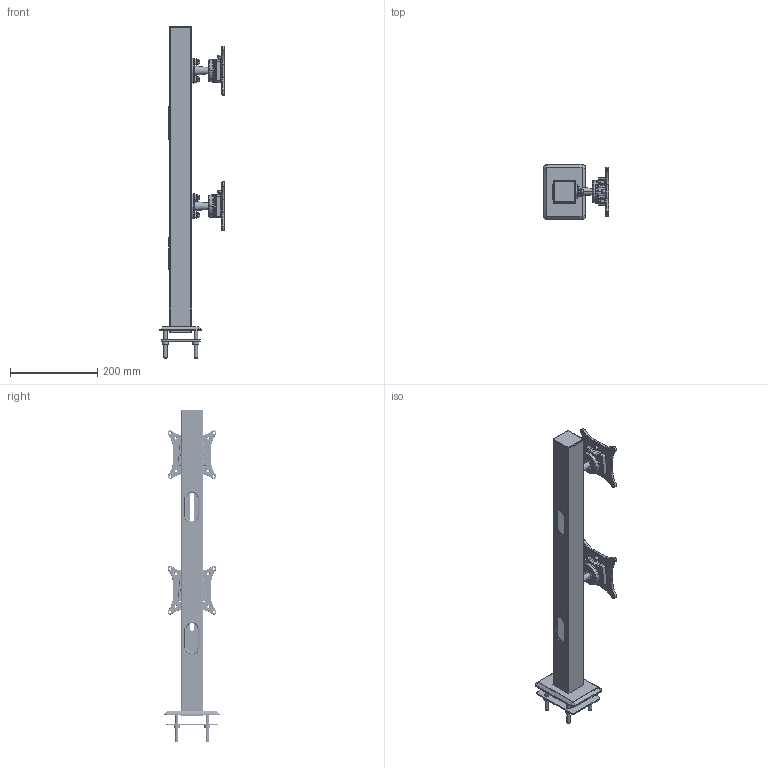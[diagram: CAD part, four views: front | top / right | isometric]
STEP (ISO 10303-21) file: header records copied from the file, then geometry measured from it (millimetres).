
FILE_DESCRIPTION(/* description */ (''),/* implementation_level */ '2;1');
FILE_NAME(/* name */ 'BL200',/* time_stamp */ '2018-05-18T15:31:01+08:00',/* author */ (''),/* organization */ (''),/* preprocessor_version */ 'ST-DEVELOPER v15',/* originating_system */ '',/* authorisation */ '');
FILE_SCHEMA (('CONFIG_CONTROL_DESIGN'));
Length unit declared in the file: millimetre
Products named in the file (11): Document; PRT0048_1_3; PRT0049_1_2; PRT0050_1_2; PRT0051_1_1; k100-waifa-2_id214_x_t; k100-waifa-2_id138_x_t; k100-waifa-2_id34_x_t; k100-waifa-2_id10_x_t; BL-FE-03-02_2; M8YAMAOLUOMU_2
Assembly tree (27 placements, depth 2):
  Document
    PRT0048_1_3  x2
    PRT0049_1_2  x4
    PRT0050_1_2  x4
    PRT0051_1_1  x4
    k100-waifa-2_id214_x_t  x2
    k100-waifa-2_id138_x_t  x2
    k100-waifa-2_id34_x_t  x2
    k100-waifa-2_id10_x_t  x2
    BL-FE-03-02_2
    M8YAMAOLUOMU_2  x4
Bounding box: 149.27 x 127 x 762 mm (x, y, z)
Volume: 601065.6 mm3; surface area: 439415.6 mm2
Topology: 36 solids, 44 shells, 2074 faces, 5554 edges, 3540 vertices
Faces by surface type: bspline 1588, plane 486
Entity records: 86756 total; most frequent: CARTESIAN_POINT 64011, ORIENTED_EDGE 7449, EDGE_CURVE 3738, VERTEX_POINT 2367, B_SPLINE_CURVE_WITH_KNOTS 2233, EDGE_LOOP 1568, ADVANCED_FACE 1441, FACE_OUTER_BOUND 1441
